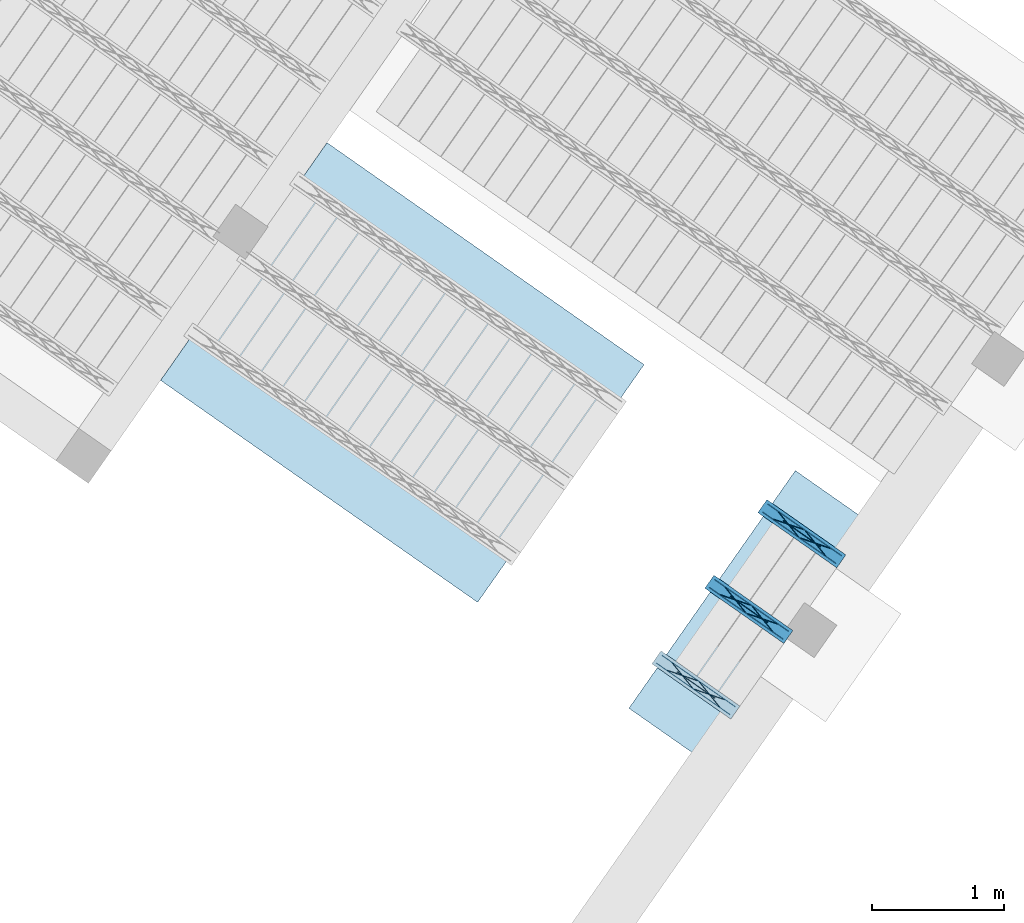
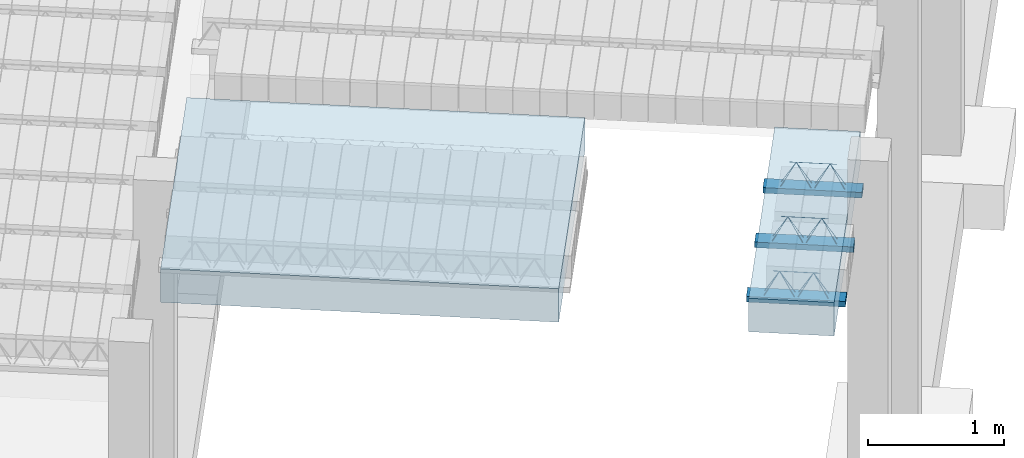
# One storey, part 50 of 80: 5 beams, 3 members, 2 slabs.
"""IFC2X3 building model written with IfcOpenShell, lengths in metres."""

from ifc_helpers import new_model, entity, si_unit, converted_unit, derived_unit, direction, frame, frame_2d, origin, origin_2d_with_axis, place, context, subcontext, project, spatial, rectangle, circle, extrude, material, type_object, element, save


model = new_model("IFC2X3")

# Units and contexts
model_context = context("Model", 3, precision=1e-05, world=origin(), true_north=direction((6.123031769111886e-17, 1.0)))
body_context = subcontext(model_context, "Body", "Model", "MODEL_VIEW")
ifc_project = project(units=[si_unit("LENGTHUNIT", "METRE"), si_unit("AREAUNIT", "SQUARE_METRE"), si_unit("VOLUMEUNIT", "CUBIC_METRE"), converted_unit("PLANEANGLEUNIT", "DEGREE", entity("IfcPlaneAngleMeasure", 0.017453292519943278), si_unit("PLANEANGLEUNIT", "RADIAN"), dimensions=[0, 0, 0, 0, 0, 0, 0]), si_unit("MASSUNIT", "GRAM", prefix="KILO"), derived_unit("MASSDENSITYUNIT", [(si_unit("MASSUNIT", "GRAM", prefix="KILO"), 1), (si_unit("LENGTHUNIT", "METRE"), -3)]), derived_unit("IONCONCENTRATIONUNIT", [(si_unit("MASSUNIT", "GRAM", prefix="KILO"), 1), (si_unit("LENGTHUNIT", "METRE"), -3)]), derived_unit("MOMENTOFINERTIAUNIT", [(si_unit("LENGTHUNIT", "METRE"), 4)]), si_unit("TIMEUNIT", "SECOND"), si_unit("FREQUENCYUNIT", "HERTZ"), si_unit("THERMODYNAMICTEMPERATUREUNIT", "DEGREE_CELSIUS"), derived_unit("THERMALTRANSMITTANCEUNIT", [(si_unit("MASSUNIT", "GRAM", prefix="KILO"), 1), (si_unit("THERMODYNAMICTEMPERATUREUNIT", "KELVIN"), -1), (si_unit("TIMEUNIT", "SECOND"), -3)]), derived_unit("THERMALCONDUCTANCEUNIT", [(si_unit("MASSUNIT", "GRAM", prefix="KILO"), 1), (si_unit("THERMODYNAMICTEMPERATUREUNIT", "KELVIN"), -1), (si_unit("TIMEUNIT", "SECOND"), -3), (si_unit("LENGTHUNIT", "METRE"), 1)]), derived_unit("VOLUMETRICFLOWRATEUNIT", [(si_unit("LENGTHUNIT", "METRE", prefix="DECI"), 3), (si_unit("TIMEUNIT", "SECOND"), -1)]), derived_unit("MASSFLOWRATEUNIT", [(si_unit("MASSUNIT", "GRAM", prefix="KILO"), 1), (si_unit("TIMEUNIT", "SECOND"), -1)]), derived_unit("ROTATIONALFREQUENCYUNIT", [(si_unit("TIMEUNIT", "SECOND"), -1)]), si_unit("ELECTRICCURRENTUNIT", "AMPERE"), si_unit("ELECTRICVOLTAGEUNIT", "VOLT"), si_unit("POWERUNIT", "WATT"), si_unit("FORCEUNIT", "NEWTON", prefix="KILO"), si_unit("ILLUMINANCEUNIT", "LUX"), si_unit("LUMINOUSFLUXUNIT", "LUMEN"), si_unit("LUMINOUSINTENSITYUNIT", "CANDELA"), si_unit("ENERGYUNIT", "JOULE"), derived_unit("USERDEFINED", [(si_unit("MASSUNIT", "GRAM", prefix="KILO"), -1), (si_unit("LENGTHUNIT", "METRE"), -2), (si_unit("TIMEUNIT", "SECOND"), 3), (si_unit("LUMINOUSFLUXUNIT", "LUMEN"), 1)]), derived_unit("USERDEFINED", [(si_unit("MASSUNIT", "GRAM", prefix="KILO"), 1), (si_unit("TIMEUNIT", "SECOND"), -3), (si_unit("LENGTHUNIT", "METRE"), 3), (si_unit("ELECTRICCURRENTUNIT", "AMPERE"), -2)]), derived_unit("SOUNDPOWERUNIT", [(si_unit("MASSUNIT", "GRAM", prefix="KILO"), 1), (si_unit("TIMEUNIT", "SECOND"), -3), (si_unit("LENGTHUNIT", "METRE"), 2)]), derived_unit("SOUNDPRESSUREUNIT", [(si_unit("MASSUNIT", "GRAM", prefix="KILO"), 1), (si_unit("LENGTHUNIT", "METRE"), -1), (si_unit("TIMEUNIT", "SECOND"), -2)]), derived_unit("LINEARVELOCITYUNIT", [(si_unit("LENGTHUNIT", "METRE"), 1), (si_unit("TIMEUNIT", "SECOND"), -1)]), si_unit("PRESSUREUNIT", "PASCAL"), derived_unit("USERDEFINED", [(si_unit("MASSUNIT", "GRAM", prefix="KILO"), 1), (si_unit("LENGTHUNIT", "METRE"), -2), (si_unit("TIMEUNIT", "SECOND"), -2)]), derived_unit("LINEARFORCEUNIT", [(si_unit("MASSUNIT", "GRAM", prefix="KILO"), 1), (si_unit("TIMEUNIT", "SECOND"), -2)]), derived_unit("PLANARFORCEUNIT", [(si_unit("MASSUNIT", "GRAM", prefix="KILO"), 1), (si_unit("LENGTHUNIT", "METRE"), -1), (si_unit("TIMEUNIT", "SECOND"), -2)]), derived_unit("SPECIFICHEATCAPACITYUNIT", [(si_unit("THERMODYNAMICTEMPERATUREUNIT", "KELVIN"), -1), (si_unit("LENGTHUNIT", "METRE"), 2), (si_unit("TIMEUNIT", "SECOND"), -2)]), derived_unit("HEATFLUXDENSITYUNIT", [(si_unit("MASSUNIT", "GRAM", prefix="KILO"), 1), (si_unit("TIMEUNIT", "SECOND"), -3)]), derived_unit("HEATINGVALUEUNIT", [(si_unit("LENGTHUNIT", "METRE"), 2), (si_unit("TIMEUNIT", "SECOND"), -2)]), derived_unit("VAPORPERMEABILITYUNIT", [(si_unit("LENGTHUNIT", "METRE"), -1), (si_unit("TIMEUNIT", "SECOND"), 1)]), derived_unit("DYNAMICVISCOSITYUNIT", [(si_unit("MASSUNIT", "GRAM", prefix="KILO"), 1), (si_unit("TIMEUNIT", "SECOND"), -1), (si_unit("LENGTHUNIT", "METRE"), -1)]), derived_unit("THERMALEXPANSIONCOEFFICIENTUNIT", [(si_unit("THERMODYNAMICTEMPERATUREUNIT", "KELVIN"), -1)]), derived_unit("MODULUSOFELASTICITYUNIT", [(si_unit("MASSUNIT", "GRAM", prefix="KILO"), 1), (si_unit("LENGTHUNIT", "METRE"), -1), (si_unit("TIMEUNIT", "SECOND"), -2)]), derived_unit("ISOTHERMALMOISTURECAPACITYUNIT", [(si_unit("MASSUNIT", "GRAM", prefix="KILO"), -1), (si_unit("LENGTHUNIT", "METRE"), 3)]), derived_unit("MOISTUREDIFFUSIVITYUNIT", [(si_unit("TIMEUNIT", "SECOND"), -1), (si_unit("LENGTHUNIT", "METRE"), 2)]), derived_unit("MASSPERLENGTHUNIT", [(si_unit("MASSUNIT", "GRAM", prefix="KILO"), 1), (si_unit("LENGTHUNIT", "METRE"), -1)]), derived_unit("THERMALRESISTANCEUNIT", [(si_unit("MASSUNIT", "GRAM", prefix="KILO"), -1), (si_unit("TIMEUNIT", "SECOND"), 3), (si_unit("THERMODYNAMICTEMPERATUREUNIT", "KELVIN"), 1)]), derived_unit("ACCELERATIONUNIT", [(si_unit("LENGTHUNIT", "METRE"), 1), (si_unit("TIMEUNIT", "SECOND"), -2)]), derived_unit("ANGULARVELOCITYUNIT", [(si_unit("TIMEUNIT", "SECOND"), -1), (si_unit("PLANEANGLEUNIT", "RADIAN"), 1)]), derived_unit("LINEARSTIFFNESSUNIT", [(si_unit("MASSUNIT", "GRAM", prefix="KILO"), 1), (si_unit("TIMEUNIT", "SECOND"), -2)]), derived_unit("WARPINGCONSTANTUNIT", [(si_unit("LENGTHUNIT", "METRE"), 6)]), derived_unit("LINEARMOMENTUNIT", [(si_unit("MASSUNIT", "GRAM", prefix="KILO"), 1), (si_unit("LENGTHUNIT", "METRE"), 1), (si_unit("TIMEUNIT", "SECOND"), -2)]), derived_unit("TORQUEUNIT", [(si_unit("MASSUNIT", "GRAM", prefix="KILO"), 1), (si_unit("LENGTHUNIT", "METRE"), 2), (si_unit("TIMEUNIT", "SECOND"), -2)])], contexts=[model_context])

# Site, building, storey
site_placement = place(None, origin())
site = spatial("IfcSite", under=ifc_project, at=site_placement, Name="Default", CompositionType="ELEMENT")
building_placement = place(site_placement, origin())
building = spatial("IfcBuilding", under=site, at=building_placement, CompositionType="ELEMENT")
storey_placement = place(building_placement, frame((0.0, 0.0, 95.94)))
storey = spatial("IfcBuildingStorey", under=building, at=storey_placement, Name="PB", CompositionType="ELEMENT", Elevation=95.94)

# Member
member_type_1 = type_object("IfcMemberType", Name="Celosía (Vigueta 1 - Paño 11)", PredefinedType="NOTDEFINED")
member_1_placement = place(storey_placement, origin())
element("IfcMember", 1, at=member_1_placement, inside=storey, type_object=member_type_1, Name="Celosía (Vigueta 1 - Paño 11)", context=body_context, shape_type="SweptSolid", body=[
    extrude(circle(Radius=0.0025, at=origin_2d_with_axis()), frame((5.857294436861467, -1.3981822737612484, 3.3049999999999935), z_axis=(-0.8191520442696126, 0.5735764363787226, 0.0), x_axis=(-0.5735764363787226, -0.8191520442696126, 0.0)), (0.0, 0.0, 1.0), 0.6823695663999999),
    extrude(circle(Radius=0.0025, at=origin_2d_with_axis()), frame((5.455109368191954, -1.0726213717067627, 3.5299999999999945), z_axis=(0.8191520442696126, -0.5735764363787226, 0.0), x_axis=(-0.5735764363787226, -0.8191520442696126, 0.0)), (0.0, 0.0, 1.0), 0.35000000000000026),
    extrude(circle(Radius=0.0025, at=origin_2d_with_axis()), frame((5.782600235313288, -1.3458808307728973, 3.3049999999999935), z_axis=(-0.3145304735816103, 0.389334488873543, 0.8657304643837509), x_axis=(-0.7778747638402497, -0.6284193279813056, 0.0)), (0.0, 0.0, 1.0), 0.2598961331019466),
    extrude(circle(Radius=0.0025, at=origin_2d_with_axis()), frame((5.577812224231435, -1.202486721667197, 3.3049999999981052), z_axis=(0.47343050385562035, -0.1624017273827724, 0.8657304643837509), x_axis=(-0.3244721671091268, -0.9458952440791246, 0.0)), (0.0, 0.0, 1.0), 0.25989613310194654),
    extrude(circle(Radius=0.0025, at=origin_2d_with_axis()), frame((5.577812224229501, -1.2024867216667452, 3.3049999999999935), z_axis=(-0.3145304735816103, 0.389334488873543, 0.8657304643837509), x_axis=(-0.7778747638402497, -0.6284193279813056, 0.0)), (0.0, 0.0, 1.0), 0.2598961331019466),
    extrude(circle(Radius=0.0025, at=origin_2d_with_axis()), frame((5.373024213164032, -1.0590926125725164, 3.3049999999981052), z_axis=(0.47343050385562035, -0.1624017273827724, 0.8657304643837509), x_axis=(-0.3244721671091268, -0.9458952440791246, 0.0)), (0.0, 0.0, 1.0), 0.25989613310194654),
    extrude(circle(Radius=0.0025, at=origin_2d_with_axis()), frame((5.898591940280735, -1.3392033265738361, 3.3049999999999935), z_axis=(-0.8191520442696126, 0.5735764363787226, 0.0), x_axis=(-0.5735764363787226, -0.8191520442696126, 0.0)), (0.0, 0.0, 1.0), 0.6823695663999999),
    extrude(circle(Radius=0.0025, at=origin_2d_with_axis()), frame((5.823897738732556, -1.286901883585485, 3.3049999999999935), z_axis=(-0.47343050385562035, 0.1624017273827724, 0.8657304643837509), x_axis=(-0.3244721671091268, -0.9458952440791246, 0.0)), (0.0, 0.0, 1.0), 0.25989613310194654),
    extrude(circle(Radius=0.0025, at=origin_2d_with_axis()), frame((5.619109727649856, -1.143507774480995, 3.3049999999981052), z_axis=(0.3145304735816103, -0.389334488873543, 0.8657304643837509), x_axis=(-0.7778747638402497, -0.6284193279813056, 0.0)), (0.0, 0.0, 1.0), 0.2598961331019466),
    extrude(circle(Radius=0.0025, at=origin_2d_with_axis()), frame((5.61910972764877, -1.143507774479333, 3.3049999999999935), z_axis=(-0.47343050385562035, 0.1624017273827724, 0.8657304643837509), x_axis=(-0.3244721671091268, -0.9458952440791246, 0.0)), (0.0, 0.0, 1.0), 0.25989613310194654),
    extrude(circle(Radius=0.0025, at=origin_2d_with_axis()), frame((5.414321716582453, -1.0001136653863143, 3.3049999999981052), z_axis=(0.3145304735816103, -0.389334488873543, 0.8657304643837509), x_axis=(-0.7778747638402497, -0.6284193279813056, 0.0)), (0.0, 0.0, 1.0), 0.2598961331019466),
])

# Beam
beam_type_1 = type_object("IfcBeamType", Name="Vigueta 1 (Paño 11) (Mf = 0.88)", PredefinedType="JOIST")
beam_1_placement = place(storey_placement, origin())
element("IfcBeam", 2, at=beam_1_placement, inside=storey, type_object=beam_type_1, Name="Vigueta 1 (Paño 11) (Mf = 0.88)", ObjectType="Mf = 0.88", context=body_context, shape_type="SweptSolid", body=[
    extrude(rectangle(XDim=0.7303695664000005, YDim=0.11999999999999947, at=frame_2d((4.440892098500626e-16, 3.226585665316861e-16), x_axis=(1.0, 0.0))), frame((5.598460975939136, -1.1729972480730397, 3.2799999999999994), z_axis=(0.0, 0.0, 1.0), x_axis=(0.8191520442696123, -0.5735764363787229, 0.0)), (0.0, 0.0, 1.0), 0.04999999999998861),
    extrude(circle(Radius=0.0025, at=origin_2d_with_axis()), frame((5.857294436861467, -1.3981822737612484, 3.3049999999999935), z_axis=(-0.8191520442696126, 0.5735764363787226, 0.0), x_axis=(-0.5735764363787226, -0.8191520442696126, 0.0)), (0.0, 0.0, 1.0), 0.6823695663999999),
    extrude(circle(Radius=0.0025, at=origin_2d_with_axis()), frame((5.455109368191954, -1.0726213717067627, 3.5299999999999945), z_axis=(0.8191520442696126, -0.5735764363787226, 0.0), x_axis=(-0.5735764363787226, -0.8191520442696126, 0.0)), (0.0, 0.0, 1.0), 0.35000000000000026),
    extrude(circle(Radius=0.0025, at=origin_2d_with_axis()), frame((5.782600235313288, -1.3458808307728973, 3.3049999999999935), z_axis=(-0.3145304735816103, 0.389334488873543, 0.8657304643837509), x_axis=(-0.7778747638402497, -0.6284193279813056, 0.0)), (0.0, 0.0, 1.0), 0.2598961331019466),
    extrude(circle(Radius=0.0025, at=origin_2d_with_axis()), frame((5.577812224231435, -1.202486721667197, 3.3049999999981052), z_axis=(0.47343050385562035, -0.1624017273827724, 0.8657304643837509), x_axis=(-0.3244721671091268, -0.9458952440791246, 0.0)), (0.0, 0.0, 1.0), 0.25989613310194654),
    extrude(circle(Radius=0.0025, at=origin_2d_with_axis()), frame((5.577812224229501, -1.2024867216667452, 3.3049999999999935), z_axis=(-0.3145304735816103, 0.389334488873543, 0.8657304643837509), x_axis=(-0.7778747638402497, -0.6284193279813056, 0.0)), (0.0, 0.0, 1.0), 0.2598961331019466),
    extrude(circle(Radius=0.0025, at=origin_2d_with_axis()), frame((5.373024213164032, -1.0590926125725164, 3.3049999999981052), z_axis=(0.47343050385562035, -0.1624017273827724, 0.8657304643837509), x_axis=(-0.3244721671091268, -0.9458952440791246, 0.0)), (0.0, 0.0, 1.0), 0.25989613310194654),
    extrude(circle(Radius=0.0025, at=origin_2d_with_axis()), frame((5.898591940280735, -1.3392033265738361, 3.3049999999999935), z_axis=(-0.8191520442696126, 0.5735764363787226, 0.0), x_axis=(-0.5735764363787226, -0.8191520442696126, 0.0)), (0.0, 0.0, 1.0), 0.6823695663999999),
    extrude(circle(Radius=0.0025, at=origin_2d_with_axis()), frame((5.823897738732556, -1.286901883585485, 3.3049999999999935), z_axis=(-0.47343050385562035, 0.1624017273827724, 0.8657304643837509), x_axis=(-0.3244721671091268, -0.9458952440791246, 0.0)), (0.0, 0.0, 1.0), 0.25989613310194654),
    extrude(circle(Radius=0.0025, at=origin_2d_with_axis()), frame((5.619109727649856, -1.143507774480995, 3.3049999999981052), z_axis=(0.3145304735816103, -0.389334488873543, 0.8657304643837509), x_axis=(-0.7778747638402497, -0.6284193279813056, 0.0)), (0.0, 0.0, 1.0), 0.2598961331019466),
    extrude(circle(Radius=0.0025, at=origin_2d_with_axis()), frame((5.61910972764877, -1.143507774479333, 3.3049999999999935), z_axis=(-0.47343050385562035, 0.1624017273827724, 0.8657304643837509), x_axis=(-0.3244721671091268, -0.9458952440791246, 0.0)), (0.0, 0.0, 1.0), 0.25989613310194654),
    extrude(circle(Radius=0.0025, at=origin_2d_with_axis()), frame((5.414321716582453, -1.0001136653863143, 3.3049999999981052), z_axis=(0.3145304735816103, -0.389334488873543, 0.8657304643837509), x_axis=(-0.7778747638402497, -0.6284193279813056, 0.0)), (0.0, 0.0, 1.0), 0.2598961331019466),
])

# Member
member_type_2 = type_object("IfcMemberType", Name="Celosía (Vigueta 2 - Paño 11)", PredefinedType="NOTDEFINED")
member_2_placement = place(storey_placement, origin())
element("IfcMember", 3, at=member_2_placement, inside=storey, type_object=member_type_2, Name="Celosía (Vigueta 2 - Paño 11)", context=body_context, shape_type="SweptSolid", body=[
    extrude(circle(Radius=0.0025, at=origin_2d_with_axis()), frame((6.258797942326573, -0.82477584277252, 3.3049999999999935), z_axis=(-0.8191520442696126, 0.5735764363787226, 0.0), x_axis=(-0.5735764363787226, -0.8191520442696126, 0.0)), (0.0, 0.0, 1.0), 0.6823695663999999),
    extrude(circle(Radius=0.0025, at=origin_2d_with_axis()), frame((5.856612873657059, -0.4992149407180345, 3.5299999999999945), z_axis=(0.8191520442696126, -0.5735764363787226, 0.0), x_axis=(-0.5735764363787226, -0.8191520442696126, 0.0)), (0.0, 0.0, 1.0), 0.35000000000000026),
    extrude(circle(Radius=0.0025, at=origin_2d_with_axis()), frame((6.1841037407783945, -0.7724743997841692, 3.3049999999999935), z_axis=(-0.3145304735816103, 0.389334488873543, 0.8657304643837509), x_axis=(-0.7778747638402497, -0.6284193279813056, 0.0)), (0.0, 0.0, 1.0), 0.2598961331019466),
    extrude(circle(Radius=0.0025, at=origin_2d_with_axis()), frame((5.97931572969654, -0.6290802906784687, 3.3049999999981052), z_axis=(0.47343050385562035, -0.1624017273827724, 0.8657304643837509), x_axis=(-0.3244721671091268, -0.9458952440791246, 0.0)), (0.0, 0.0, 1.0), 0.25989613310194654),
    extrude(circle(Radius=0.0025, at=origin_2d_with_axis()), frame((5.979315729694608, -0.629080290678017, 3.3049999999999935), z_axis=(-0.3145304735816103, 0.389334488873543, 0.8657304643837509), x_axis=(-0.7778747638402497, -0.6284193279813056, 0.0)), (0.0, 0.0, 1.0), 0.2598961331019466),
    extrude(circle(Radius=0.0025, at=origin_2d_with_axis()), frame((5.7745277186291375, -0.4856861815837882, 3.3049999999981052), z_axis=(0.47343050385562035, -0.1624017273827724, 0.8657304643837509), x_axis=(-0.3244721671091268, -0.9458952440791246, 0.0)), (0.0, 0.0, 1.0), 0.25989613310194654),
    extrude(circle(Radius=0.0025, at=origin_2d_with_axis()), frame((6.30009544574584, -0.765796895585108, 3.3049999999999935), z_axis=(-0.8191520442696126, 0.5735764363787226, 0.0), x_axis=(-0.5735764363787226, -0.8191520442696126, 0.0)), (0.0, 0.0, 1.0), 0.6823695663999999),
    extrude(circle(Radius=0.0025, at=origin_2d_with_axis()), frame((6.225401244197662, -0.7134954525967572, 3.3049999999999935), z_axis=(-0.47343050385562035, 0.1624017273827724, 0.8657304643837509), x_axis=(-0.3244721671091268, -0.9458952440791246, 0.0)), (0.0, 0.0, 1.0), 0.25989613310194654),
    extrude(circle(Radius=0.0025, at=origin_2d_with_axis()), frame((6.020613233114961, -0.5701013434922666, 3.3049999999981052), z_axis=(0.3145304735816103, -0.389334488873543, 0.8657304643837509), x_axis=(-0.7778747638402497, -0.6284193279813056, 0.0)), (0.0, 0.0, 1.0), 0.2598961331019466),
    extrude(circle(Radius=0.0025, at=origin_2d_with_axis()), frame((6.020613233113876, -0.5701013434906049, 3.3049999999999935), z_axis=(-0.47343050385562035, 0.1624017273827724, 0.8657304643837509), x_axis=(-0.3244721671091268, -0.9458952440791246, 0.0)), (0.0, 0.0, 1.0), 0.25989613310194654),
    extrude(circle(Radius=0.0025, at=origin_2d_with_axis()), frame((5.815825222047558, -0.426707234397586, 3.3049999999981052), z_axis=(0.3145304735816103, -0.389334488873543, 0.8657304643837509), x_axis=(-0.7778747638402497, -0.6284193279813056, 0.0)), (0.0, 0.0, 1.0), 0.2598961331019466),
])

# Beam
beam_type_2 = type_object("IfcBeamType", Name="Vigueta 2 (Paño 11) (Mf = 0.17)", PredefinedType="JOIST")
beam_2_placement = place(storey_placement, origin())
element("IfcBeam", 4, at=beam_2_placement, inside=storey, type_object=beam_type_2, Name="Vigueta 2 (Paño 11) (Mf = 0.17)", ObjectType="Mf = 0.17", context=body_context, shape_type="SweptSolid", body=[
    extrude(rectangle(XDim=0.7303695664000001, YDim=0.11999999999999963, at=frame_2d((4.996003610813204e-16, 3.0184188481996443e-16), x_axis=(1.0, 0.0))), frame((5.999964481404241, -0.5995908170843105, 3.2799999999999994), z_axis=(0.0, 0.0, 1.0), x_axis=(0.8191520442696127, -0.5735764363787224, 0.0)), (0.0, 0.0, 1.0), 0.0499999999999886),
    extrude(circle(Radius=0.0025, at=origin_2d_with_axis()), frame((6.258797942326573, -0.82477584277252, 3.3049999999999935), z_axis=(-0.8191520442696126, 0.5735764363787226, 0.0), x_axis=(-0.5735764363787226, -0.8191520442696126, 0.0)), (0.0, 0.0, 1.0), 0.6823695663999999),
    extrude(circle(Radius=0.0025, at=origin_2d_with_axis()), frame((5.856612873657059, -0.4992149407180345, 3.5299999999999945), z_axis=(0.8191520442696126, -0.5735764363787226, 0.0), x_axis=(-0.5735764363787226, -0.8191520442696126, 0.0)), (0.0, 0.0, 1.0), 0.35000000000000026),
    extrude(circle(Radius=0.0025, at=origin_2d_with_axis()), frame((6.1841037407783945, -0.7724743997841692, 3.3049999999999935), z_axis=(-0.3145304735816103, 0.389334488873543, 0.8657304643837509), x_axis=(-0.7778747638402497, -0.6284193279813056, 0.0)), (0.0, 0.0, 1.0), 0.2598961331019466),
    extrude(circle(Radius=0.0025, at=origin_2d_with_axis()), frame((5.97931572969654, -0.6290802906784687, 3.3049999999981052), z_axis=(0.47343050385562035, -0.1624017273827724, 0.8657304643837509), x_axis=(-0.3244721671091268, -0.9458952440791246, 0.0)), (0.0, 0.0, 1.0), 0.25989613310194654),
    extrude(circle(Radius=0.0025, at=origin_2d_with_axis()), frame((5.979315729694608, -0.629080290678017, 3.3049999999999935), z_axis=(-0.3145304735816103, 0.389334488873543, 0.8657304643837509), x_axis=(-0.7778747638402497, -0.6284193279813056, 0.0)), (0.0, 0.0, 1.0), 0.2598961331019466),
    extrude(circle(Radius=0.0025, at=origin_2d_with_axis()), frame((5.7745277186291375, -0.4856861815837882, 3.3049999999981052), z_axis=(0.47343050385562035, -0.1624017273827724, 0.8657304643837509), x_axis=(-0.3244721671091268, -0.9458952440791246, 0.0)), (0.0, 0.0, 1.0), 0.25989613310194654),
    extrude(circle(Radius=0.0025, at=origin_2d_with_axis()), frame((6.30009544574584, -0.765796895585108, 3.3049999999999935), z_axis=(-0.8191520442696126, 0.5735764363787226, 0.0), x_axis=(-0.5735764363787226, -0.8191520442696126, 0.0)), (0.0, 0.0, 1.0), 0.6823695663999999),
    extrude(circle(Radius=0.0025, at=origin_2d_with_axis()), frame((6.225401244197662, -0.7134954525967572, 3.3049999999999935), z_axis=(-0.47343050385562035, 0.1624017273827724, 0.8657304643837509), x_axis=(-0.3244721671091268, -0.9458952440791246, 0.0)), (0.0, 0.0, 1.0), 0.25989613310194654),
    extrude(circle(Radius=0.0025, at=origin_2d_with_axis()), frame((6.020613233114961, -0.5701013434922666, 3.3049999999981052), z_axis=(0.3145304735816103, -0.389334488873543, 0.8657304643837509), x_axis=(-0.7778747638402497, -0.6284193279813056, 0.0)), (0.0, 0.0, 1.0), 0.2598961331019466),
    extrude(circle(Radius=0.0025, at=origin_2d_with_axis()), frame((6.020613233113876, -0.5701013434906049, 3.3049999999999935), z_axis=(-0.47343050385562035, 0.1624017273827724, 0.8657304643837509), x_axis=(-0.3244721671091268, -0.9458952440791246, 0.0)), (0.0, 0.0, 1.0), 0.25989613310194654),
    extrude(circle(Radius=0.0025, at=origin_2d_with_axis()), frame((5.815825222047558, -0.426707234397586, 3.3049999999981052), z_axis=(0.3145304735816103, -0.389334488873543, 0.8657304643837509), x_axis=(-0.7778747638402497, -0.6284193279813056, 0.0)), (0.0, 0.0, 1.0), 0.2598961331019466),
])

# Member
member_type_3 = type_object("IfcMemberType", Name="Celosía (Vigueta 3 - Paño 11)", PredefinedType="NOTDEFINED")
member_3_placement = place(storey_placement, origin())
element("IfcMember", 5, at=member_3_placement, inside=storey, type_object=member_type_3, Name="Celosía (Vigueta 3 - Paño 11)", context=body_context, shape_type="SweptSolid", body=[
    extrude(circle(Radius=0.0025, at=origin_2d_with_axis()), frame((6.660301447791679, -0.25136941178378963, 3.3049999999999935), z_axis=(-0.8191520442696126, 0.5735764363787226, 0.0), x_axis=(-0.5735764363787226, -0.8191520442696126, 0.0)), (0.0, 0.0, 1.0), 0.6823695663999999),
    extrude(circle(Radius=0.0025, at=origin_2d_with_axis()), frame((6.258116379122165, 0.0741914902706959, 3.5299999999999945), z_axis=(0.8191520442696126, -0.5735764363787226, 0.0), x_axis=(-0.5735764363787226, -0.8191520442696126, 0.0)), (0.0, 0.0, 1.0), 0.35000000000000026),
    extrude(circle(Radius=0.0025, at=origin_2d_with_axis()), frame((6.585607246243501, -0.19906796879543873, 3.3049999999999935), z_axis=(-0.3145304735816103, 0.389334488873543, 0.8657304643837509), x_axis=(-0.7778747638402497, -0.6284193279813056, 0.0)), (0.0, 0.0, 1.0), 0.2598961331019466),
    extrude(circle(Radius=0.0025, at=origin_2d_with_axis()), frame((6.380819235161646, -0.0556738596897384, 3.3049999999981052), z_axis=(0.47343050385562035, -0.1624017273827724, 0.8657304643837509), x_axis=(-0.3244721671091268, -0.9458952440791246, 0.0)), (0.0, 0.0, 1.0), 0.25989613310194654),
    extrude(circle(Radius=0.0025, at=origin_2d_with_axis()), frame((6.380819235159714, -0.05567385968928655, 3.3049999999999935), z_axis=(-0.3145304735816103, 0.389334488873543, 0.8657304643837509), x_axis=(-0.7778747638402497, -0.6284193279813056, 0.0)), (0.0, 0.0, 1.0), 0.2598961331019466),
    extrude(circle(Radius=0.0025, at=origin_2d_with_axis()), frame((6.176031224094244, 0.08772024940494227, 3.3049999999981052), z_axis=(0.47343050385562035, -0.1624017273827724, 0.8657304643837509), x_axis=(-0.3244721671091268, -0.9458952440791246, 0.0)), (0.0, 0.0, 1.0), 0.25989613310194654),
    extrude(circle(Radius=0.0025, at=origin_2d_with_axis()), frame((6.701598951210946, -0.19239046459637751, 3.3049999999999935), z_axis=(-0.8191520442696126, 0.5735764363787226, 0.0), x_axis=(-0.5735764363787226, -0.8191520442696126, 0.0)), (0.0, 0.0, 1.0), 0.6823695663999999),
    extrude(circle(Radius=0.0025, at=origin_2d_with_axis()), frame((6.626904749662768, -0.1400890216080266, 3.3049999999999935), z_axis=(-0.47343050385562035, 0.1624017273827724, 0.8657304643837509), x_axis=(-0.3244721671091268, -0.9458952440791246, 0.0)), (0.0, 0.0, 1.0), 0.25989613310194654),
    extrude(circle(Radius=0.0025, at=origin_2d_with_axis()), frame((6.422116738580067, 0.003305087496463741, 3.3049999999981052), z_axis=(0.3145304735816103, -0.389334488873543, 0.8657304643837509), x_axis=(-0.7778747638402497, -0.6284193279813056, 0.0)), (0.0, 0.0, 1.0), 0.2598961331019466),
    extrude(circle(Radius=0.0025, at=origin_2d_with_axis()), frame((6.422116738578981, 0.003305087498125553, 3.3049999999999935), z_axis=(-0.47343050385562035, 0.1624017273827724, 0.8657304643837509), x_axis=(-0.3244721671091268, -0.9458952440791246, 0.0)), (0.0, 0.0, 1.0), 0.25989613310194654),
    extrude(circle(Radius=0.0025, at=origin_2d_with_axis()), frame((6.2173287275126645, 0.14669919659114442, 3.3049999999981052), z_axis=(0.3145304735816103, -0.389334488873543, 0.8657304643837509), x_axis=(-0.7778747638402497, -0.6284193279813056, 0.0)), (0.0, 0.0, 1.0), 0.2598961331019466),
])

# Beams
beam_type_3 = type_object("IfcBeamType", Name="Vigueta 3 (Paño 11) (Mf = 0.89)", PredefinedType="JOIST")
beam_3_placement = place(storey_placement, origin())
element("IfcBeam", 6, at=beam_3_placement, inside=storey, type_object=beam_type_3, Name="Vigueta 3 (Paño 11) (Mf = 0.89)", ObjectType="Mf = 0.89", context=body_context, shape_type="SweptSolid", body=[
    extrude(rectangle(XDim=0.7303695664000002, YDim=0.11999999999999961, at=frame_2d((4.163336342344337e-16, 3.400058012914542e-16), x_axis=(1.0, 0.0))), frame((6.401467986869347, -0.026184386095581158, 3.2799999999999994), z_axis=(0.0, 0.0, 1.0), x_axis=(0.8191520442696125, -0.5735764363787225, 0.0)), (0.0, 0.0, 1.0), 0.04999999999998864),
    extrude(circle(Radius=0.0025, at=origin_2d_with_axis()), frame((6.660301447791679, -0.25136941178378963, 3.3049999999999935), z_axis=(-0.8191520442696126, 0.5735764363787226, 0.0), x_axis=(-0.5735764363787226, -0.8191520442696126, 0.0)), (0.0, 0.0, 1.0), 0.6823695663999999),
    extrude(circle(Radius=0.0025, at=origin_2d_with_axis()), frame((6.258116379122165, 0.0741914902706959, 3.5299999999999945), z_axis=(0.8191520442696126, -0.5735764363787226, 0.0), x_axis=(-0.5735764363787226, -0.8191520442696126, 0.0)), (0.0, 0.0, 1.0), 0.35000000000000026),
    extrude(circle(Radius=0.0025, at=origin_2d_with_axis()), frame((6.585607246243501, -0.19906796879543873, 3.3049999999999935), z_axis=(-0.3145304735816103, 0.389334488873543, 0.8657304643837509), x_axis=(-0.7778747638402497, -0.6284193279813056, 0.0)), (0.0, 0.0, 1.0), 0.2598961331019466),
    extrude(circle(Radius=0.0025, at=origin_2d_with_axis()), frame((6.380819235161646, -0.0556738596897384, 3.3049999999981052), z_axis=(0.47343050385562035, -0.1624017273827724, 0.8657304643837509), x_axis=(-0.3244721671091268, -0.9458952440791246, 0.0)), (0.0, 0.0, 1.0), 0.25989613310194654),
    extrude(circle(Radius=0.0025, at=origin_2d_with_axis()), frame((6.380819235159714, -0.05567385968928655, 3.3049999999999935), z_axis=(-0.3145304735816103, 0.389334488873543, 0.8657304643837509), x_axis=(-0.7778747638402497, -0.6284193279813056, 0.0)), (0.0, 0.0, 1.0), 0.2598961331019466),
    extrude(circle(Radius=0.0025, at=origin_2d_with_axis()), frame((6.176031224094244, 0.08772024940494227, 3.3049999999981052), z_axis=(0.47343050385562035, -0.1624017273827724, 0.8657304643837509), x_axis=(-0.3244721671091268, -0.9458952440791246, 0.0)), (0.0, 0.0, 1.0), 0.25989613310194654),
    extrude(circle(Radius=0.0025, at=origin_2d_with_axis()), frame((6.701598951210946, -0.19239046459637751, 3.3049999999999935), z_axis=(-0.8191520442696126, 0.5735764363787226, 0.0), x_axis=(-0.5735764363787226, -0.8191520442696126, 0.0)), (0.0, 0.0, 1.0), 0.6823695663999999),
    extrude(circle(Radius=0.0025, at=origin_2d_with_axis()), frame((6.626904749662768, -0.1400890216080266, 3.3049999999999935), z_axis=(-0.47343050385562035, 0.1624017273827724, 0.8657304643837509), x_axis=(-0.3244721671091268, -0.9458952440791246, 0.0)), (0.0, 0.0, 1.0), 0.25989613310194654),
    extrude(circle(Radius=0.0025, at=origin_2d_with_axis()), frame((6.422116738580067, 0.003305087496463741, 3.3049999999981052), z_axis=(0.3145304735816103, -0.389334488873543, 0.8657304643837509), x_axis=(-0.7778747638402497, -0.6284193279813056, 0.0)), (0.0, 0.0, 1.0), 0.2598961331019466),
    extrude(circle(Radius=0.0025, at=origin_2d_with_axis()), frame((6.422116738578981, 0.003305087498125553, 3.3049999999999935), z_axis=(-0.47343050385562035, 0.1624017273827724, 0.8657304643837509), x_axis=(-0.3244721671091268, -0.9458952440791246, 0.0)), (0.0, 0.0, 1.0), 0.25989613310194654),
    extrude(circle(Radius=0.0025, at=origin_2d_with_axis()), frame((6.2173287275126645, 0.14669919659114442, 3.3049999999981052), z_axis=(0.3145304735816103, -0.389334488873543, 0.8657304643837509), x_axis=(-0.7778747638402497, -0.6284193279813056, 0.0)), (0.0, 0.0, 1.0), 0.2598961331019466),
])
ifc_material = material(Name="Hormigón armado")
beam_4_placement = place(storey_placement, origin())
element("IfcBeam", 7, at=beam_4_placement, inside=storey, material=ifc_material, Name="238585", context=body_context, shape_type="SweptSolid", body=[
    extrude(rectangle(XDim=0.04999999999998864, YDim=0.1199999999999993, at=frame_2d((0.0, -2.7755575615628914e-17), x_axis=(1.0, 0.0))), frame((5.700822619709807, -0.3901294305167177, 3.3049999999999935), z_axis=(0.8191520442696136, -0.573576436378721, 0.0), x_axis=(0.0, 0.0, -1.0)), (0.0, 0.0, 1.0), 0.7303695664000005),
])
beam_5_placement = place(storey_placement, origin())
element("IfcBeam", 8, at=beam_5_placement, inside=storey, material=ifc_material, Name="238588", context=body_context, shape_type="SweptSolid", body=[
    extrude(rectangle(XDim=0.04999999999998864, YDim=0.1199999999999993, at=origin_2d_with_axis()), frame((6.102326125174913, 0.18327700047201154, 3.3049999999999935), z_axis=(0.8191520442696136, -0.573576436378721, 0.0), x_axis=(0.0, 0.0, -1.0)), (0.0, 0.0, 1.0), 0.7303695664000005),
])

# Slabs
slab_type = type_object("IfcSlabType", Name="Forma directa:DirectShapeType 1092", PredefinedType="FLOOR")
slab_1_placement = place(storey_placement, origin())
element("IfcSlab", 9, at=slab_1_placement, inside=storey, type_object=slab_type, Name="Forma directa:DirectShapeType 1092", ObjectType="Forma directa:DirectShapeType 1092", PredefinedType="FLOOR", context=body_context, shape_type="SweptSolid", body=[
    extrude(rectangle(XDim=0.630369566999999, YDim=2.200354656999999, at=frame_2d((-0.1050615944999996, -0.056715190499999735), x_axis=(1.0, 0.0))), frame((6.097805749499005, -0.6430283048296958, 3.2799999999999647), z_axis=(0.0, 0.0, 1.0), x_axis=(0.8191520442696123, -0.5735764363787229, 0.0)), (0.0, 0.0, 1.0), 0.3000000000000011),
])
slab_2_placement = place(storey_placement, origin())
element("IfcSlab", 10, at=slab_2_placement, inside=storey, type_object=slab_type, Name="Forma directa:DirectShapeType 1092", ObjectType="Forma directa:DirectShapeType 1092", PredefinedType="FLOOR", context=body_context, shape_type="SweptSolid", body=[
    extrude(rectangle(XDim=2.2003546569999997, YDim=2.935184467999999, at=frame_2d((0.056715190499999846, 0.4891974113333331), x_axis=(1.0, 0.0))), frame((3.003838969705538, 1.523390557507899, 3.2799999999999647), z_axis=(0.0, 0.0, 1.0), x_axis=(-0.5735764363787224, -0.8191520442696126, 0.0)), (0.0, 0.0, 1.0), 0.3000000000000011),
])

save(model, "model.ifc")
